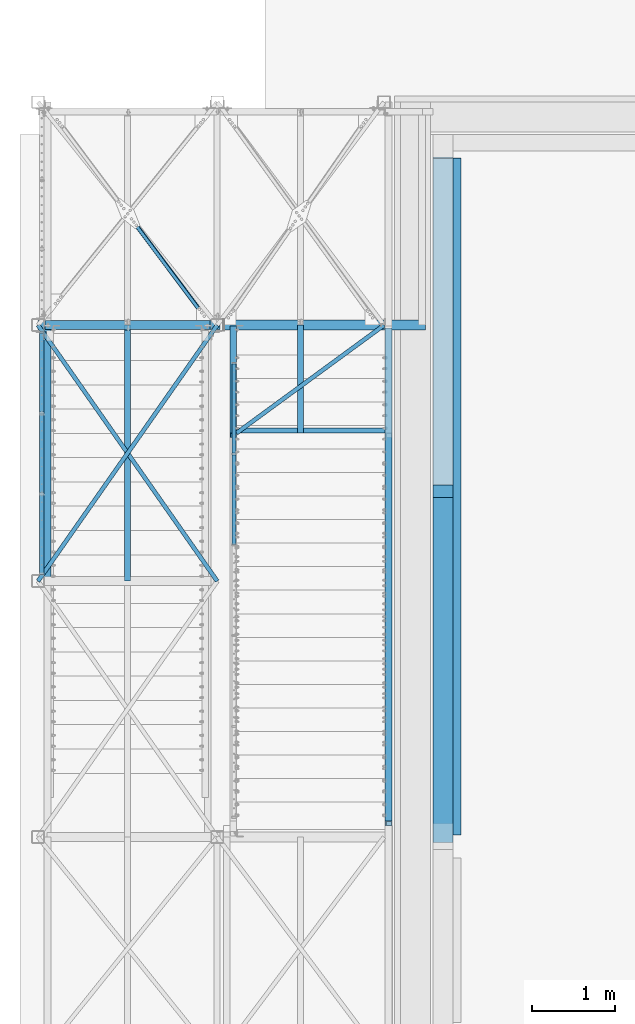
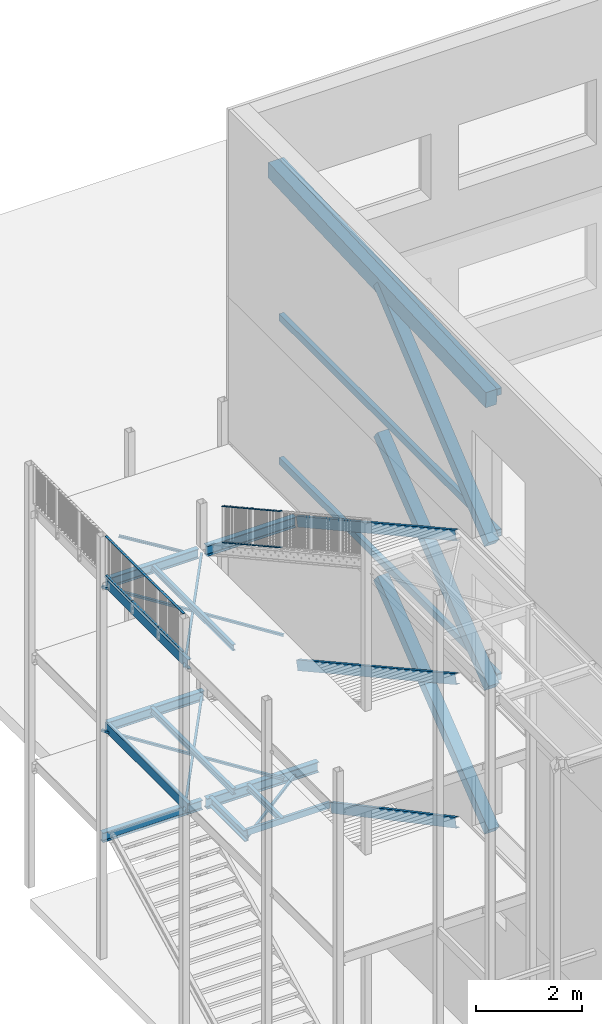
# One storey, part 27 of 78: 24 beams, 8 members, 29 elements without a shape of their own.
"""IFC2X3 building model written with IfcOpenShell, lengths in millimetres."""

from ifc_helpers import new_model, si_unit, frame, origin_with_axes, origin_2d_with_axis, place, context, subcontext, project, spatial, polyline, rectangle, i_section, l_section, u_section, outline, extrude, boolean, clip, halfspace, material, type_object, element, aggregate, save


model = new_model("IFC2X3")

# Units and contexts
model_context = context("Model", 3, precision=1e-05, world=origin_with_axes())
body_context = subcontext(model_context, "Body", "Model", "MODEL_VIEW")
ifc_project = project(units=[si_unit("LENGTHUNIT", "METRE", prefix="MILLI"), si_unit("AREAUNIT", "SQUARE_METRE"), si_unit("VOLUMEUNIT", "CUBIC_METRE"), si_unit("MASSUNIT", "GRAM", prefix="KILO"), si_unit("TIMEUNIT", "SECOND"), si_unit("PLANEANGLEUNIT", "RADIAN"), si_unit("SOLIDANGLEUNIT", "STERADIAN"), si_unit("THERMODYNAMICTEMPERATUREUNIT", "DEGREE_CELSIUS"), si_unit("LUMINOUSINTENSITYUNIT", "LUMEN")], contexts=[model_context])

# Site, building, storey
site_placement = place(None, origin_with_axes())
site = spatial("IfcSite", under=ifc_project, at=site_placement, Name="Site", CompositionType="ELEMENT")
building_placement = place(site_placement, origin_with_axes())
building = spatial("IfcBuilding", under=site, at=building_placement, Name="Undefined", CompositionType="ELEMENT")
storey_placement = place(building_placement, origin_with_axes())
storey = spatial("IfcBuildingStorey", under=building, at=storey_placement, Name="Undefined", CompositionType="ELEMENT", Elevation=0.0)

# Assembly, beam
assembly_1_placement = place(storey_placement, origin_with_axes())
assembly_1 = element("IfcElementAssembly", 1, at=assembly_1_placement, inside=storey, AssemblyPlace="NOTDEFINED", PredefinedType="RIGID_FRAME")
ifc_material_1 = material(Name="STEEL/S235JR")
beam_type_1 = type_object("IfcBeamType", Name="UPN220", PredefinedType="NOTDEFINED")
beam_1_placement = place(assembly_1_placement, frame((-33022.8599999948, 10100.0000000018, 150760.040107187), z_axis=(0.0, 0.0, 1.0), x_axis=(0.0, -1.0, 0.0)))
beam_1 = element("IfcBeam", 2, at=beam_1_placement, type_object=beam_type_1, material=ifc_material_1, Name="LIMON", ObjectType="UPN220", context=body_context, shape_type="Clipping", body=[
    clip(extrude(u_section(Depth=220.0, FlangeWidth=80.0, WebThickness=9.0, FlangeThickness=12.5, FilletRadius=12.5, EdgeRadius=6.5, FlangeSlope=0.0798299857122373, at=origin_2d_with_axis()), frame((1354.33820533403, 0.0, 0.0), z_axis=(-1.0, 0.0, 0.0), x_axis=(0.0, -1.0, 0.0)), (0.0, 0.0, 1.0), 1354.34), halfspace(frame((1299.15654946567, -3.76167008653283e-09, 109.999999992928), z_axis=(-0.97023880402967, 0.0, -0.242150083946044), x_axis=(0.0, -1.0, 0.0)), True)),
])
aggregate(assembly_1, [beam_1])

assembly_2_placement = place(storey_placement, origin_with_axes())
assembly_2 = element("IfcElementAssembly", 3, at=assembly_2_placement, inside=storey, AssemblyPlace="NOTDEFINED", PredefinedType="RIGID_FRAME")
ifc_material_2 = material(Name="STEEL/S275JR")
beam_2_placement = place(assembly_2_placement, frame((-35271.43, 10108.0, 156560.04), z_axis=(0.0, 0.0, -1.0), x_axis=(0.0, -1.0, 0.0)))
beam_2 = element("IfcBeam", 4, at=beam_2_placement, type_object=beam_type_1, material=ifc_material_2, Name="SOLIVE", ObjectType="UPN220", context=body_context, shape_type="Clipping", body=[
    clip(extrude(u_section(Depth=220.0, FlangeWidth=80.0, WebThickness=9.0, FlangeThickness=12.5, FilletRadius=12.5, EdgeRadius=6.5, FlangeSlope=0.0798299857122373, at=origin_2d_with_axis()), frame((3100.0, 0.0, 0.0), z_axis=(-1.0, 0.0, 0.0), x_axis=(0.0, -1.0, 0.0)), (0.0, 0.0, 1.0), 3100.0), halfspace(frame((85.0, -40.0, -110.0), z_axis=(-1.0, 0.0, 0.0), x_axis=(0.0, 1.0, 0.0)), False)),
])
aggregate(assembly_2, [beam_2])

assembly_3_placement = place(storey_placement, origin_with_axes())
assembly_3 = element("IfcElementAssembly", 5, at=assembly_3_placement, inside=storey, AssemblyPlace="NOTDEFINED", PredefinedType="RIGID_FRAME")
beam_3_placement = place(assembly_3_placement, frame((-35271.43, 10108.0, 153260.04), z_axis=(0.0, 0.0, -1.0), x_axis=(0.0, -1.0, 0.0)))
beam_3 = element("IfcBeam", 6, at=beam_3_placement, type_object=beam_type_1, material=ifc_material_2, Name="SOLIVE", ObjectType="UPN220", context=body_context, shape_type="SweptSolid", body=[
    extrude(u_section(Depth=220.0, FlangeWidth=80.0, WebThickness=9.0, FlangeThickness=12.5, FilletRadius=12.5, EdgeRadius=6.5, FlangeSlope=0.0798299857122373, at=origin_2d_with_axis()), frame((3100.0, 0.0, 0.0), z_axis=(-1.0, 0.0, 0.0), x_axis=(0.0, -1.0, 0.0)), (0.0, 0.0, 1.0), 3100.0),
])
aggregate(assembly_3, [beam_3])

# Assembly, beams
assembly_4_placement = place(storey_placement, origin_with_axes())
assembly_4 = element("IfcElementAssembly", 7, at=assembly_4_placement, inside=storey, Name="MAIN_COURANTE", AssemblyPlace="NOTDEFINED", PredefinedType="RIGID_FRAME")
beam_type_2 = type_object("IfcBeamType", Name="PL10*50", PredefinedType="NOTDEFINED")
beam_4_placement = place(assembly_4_placement, frame((-35341.43, 7087.99999999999, 156815.04), z_axis=(1.0, 0.0, 0.0), x_axis=(0.0, 1.0, 0.0)))
solid_1 = boolean("DIFFERENCE", boolean("DIFFERENCE", extrude(rectangle(XDim=20.0, YDim=50.0, at=origin_2d_with_axis()), frame((10.0000000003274, 885.0, -2.18278728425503e-10), z_axis=(0.0, -1.0, 0.0), x_axis=(1.0, 0.0, 0.0)), (0.0, 0.0, 1.0), 1190.0), halfspace(frame((10.0000000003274, 875.0, -2.18278728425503e-11), z_axis=(0.0, 1.0, 0.0), x_axis=(0.0, 0.0, -1.0)), False)), halfspace(frame((-999.999999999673, -305.0, -2.18278728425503e-10), z_axis=(0.0, 1.0, 0.0), x_axis=(0.0, 0.0, -1.0)), True))
solid_2 = boolean("DIFFERENCE", boolean("DIFFERENCE", extrude(rectangle(XDim=20.0, YDim=50.0, at=origin_2d_with_axis()), frame((983.333333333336, 885.0, 0.0), z_axis=(0.0, -1.0, 0.0), x_axis=(1.0, 0.0, 0.0)), (0.0, 0.0, 1.0), 1190.0), halfspace(frame((983.333333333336, 875.0, 0.0), z_axis=(0.0, 1.0, 0.0), x_axis=(0.0, 0.0, -1.0)), False)), halfspace(frame((-26.6666666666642, -305.0, 0.0), z_axis=(0.0, 1.0, 0.0), x_axis=(0.0, 0.0, -1.0)), True))
solid_3 = boolean("DIFFERENCE", boolean("DIFFERENCE", extrude(rectangle(XDim=20.0, YDim=50.0, at=origin_2d_with_axis()), frame((1956.66666666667, 885.0, 0.0), z_axis=(0.0, -1.0, 0.0), x_axis=(1.0, 0.0, 0.0)), (0.0, 0.0, 1.0), 1190.0), halfspace(frame((1956.66666666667, 875.0, 0.0), z_axis=(0.0, 1.0, 0.0), x_axis=(0.0, 0.0, -1.0)), False)), halfspace(frame((946.666666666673, -305.0, 0.0), z_axis=(0.0, 1.0, 0.0), x_axis=(0.0, 0.0, -1.0)), True))
solid_4 = boolean("DIFFERENCE", boolean("DIFFERENCE", extrude(rectangle(XDim=20.0, YDim=50.0, at=origin_2d_with_axis()), frame((2930.00000000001, 885.0, 0.0), z_axis=(0.0, -1.0, 0.0), x_axis=(1.0, 0.0, 0.0)), (0.0, 0.0, 1.0), 1190.0), halfspace(frame((2930.00000000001, 875.0, 0.0), z_axis=(0.0, 1.0, 0.0), x_axis=(0.0, 0.0, -1.0)), False)), halfspace(frame((1920.00000000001, -305.0, 0.0), z_axis=(0.0, 1.0, 0.0), x_axis=(0.0, 0.0, -1.0)), True))
beam_4 = element("IfcBeam", 8, at=beam_4_placement, type_object=beam_type_2, material=ifc_material_1, Name="LISSE", ObjectType="PL10*50", context=body_context, shape_type="CSG", body=[
    boolean("DIFFERENCE", boolean("DIFFERENCE", boolean("DIFFERENCE", boolean("DIFFERENCE", extrude(rectangle(XDim=10.0, YDim=50.0, at=origin_2d_with_axis()), frame((2940.00000000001, 0.0, 0.0), z_axis=(-1.0, 0.0, 0.0), x_axis=(0.0, -1.0, 0.0)), (0.0, 0.0, 1.0), 2940.0), solid_1), solid_2), solid_3), solid_4),
])
beam_5_placement = place(assembly_4_placement, frame((-35341.43, 10028.0, 157695.04), z_axis=(1.0, 0.0, 0.0), x_axis=(0.0, -1.0, 0.0)))
beam_5 = element("IfcBeam", 9, at=beam_5_placement, type_object=beam_type_2, material=ifc_material_1, Name="MAIN_COURANTE", ObjectType="PL10*50", context=body_context, shape_type="SweptSolid", body=[
    extrude(rectangle(XDim=10.0, YDim=50.0, at=origin_2d_with_axis()), frame((2940.00000000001, 0.0, 0.0), z_axis=(-1.0, 0.0, 0.0), x_axis=(0.0, -1.0, 0.0)), (0.0, 0.0, 1.0), 2940.0),
])
aggregate(assembly_4, [beam_4, beam_5])

# Assembly, beam
assembly_5_placement = place(storey_placement, origin_with_axes())
assembly_5 = element("IfcElementAssembly", 10, at=assembly_5_placement, inside=storey, Name="STAB", AssemblyPlace="NOTDEFINED", PredefinedType="RIGID_FRAME")
beam_type_3 = type_object("IfcBeamType", Name="L50*5", PredefinedType="NOTDEFINED")
beam_6_placement = place(assembly_5_placement, frame((-34301.4299999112, 11457.9999998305, 156483.04), z_axis=(0.0, 0.0, 1.0), x_axis=(0.59905058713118, -0.800711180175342, 0.0)))
beam_6 = element("IfcBeam", 11, at=beam_6_placement, type_object=beam_type_3, material=ifc_material_2, Name="STAB", ObjectType="L50*5", context=body_context, shape_type="Clipping", body=[
    clip(clip(extrude(l_section(Depth=50.0, Width=50.0, Thickness=5.0, FilletRadius=7.0, EdgeRadius=3.5, at=origin_2d_with_axis()), frame((1686.0011860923, 0.0, 0.0), z_axis=(-1.0, 0.0, 0.0), x_axis=(0.0, -1.0, 0.0)), (0.0, 0.0, 1.0), 1686.0), halfspace(frame((1573.63075019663, -4.51109372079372e-10, -33.0), z_axis=(-1.0, 0.0, 0.0), x_axis=(0.0, 1.0, 0.0)), True)), halfspace(frame((52.8846509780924, 5.42058842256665e-10, -33.0), z_axis=(1.0, 0.0, 0.0), x_axis=(0.0, -1.0, 0.0)), True)),
])
aggregate(assembly_5, [beam_6])

assembly_6_placement = place(storey_placement, origin_with_axes())
assembly_6 = element("IfcElementAssembly", 12, at=assembly_6_placement, inside=storey, Name="STAB", AssemblyPlace="NOTDEFINED", PredefinedType="RIGID_FRAME")
beam_7_placement = place(assembly_6_placement, frame((-32982.8600000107, 8800.84000152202, 150705.04), z_axis=(0.0, 0.0, -1.0), x_axis=(0.807026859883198, 0.590514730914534, 0.0)))
beam_7 = element("IfcBeam", 13, at=beam_7_placement, type_object=beam_type_3, material=ifc_material_2, Name="STAB", ObjectType="L50*5", context=body_context, shape_type="SweptSolid", body=[
    extrude(l_section(Depth=50.0, Width=50.0, Thickness=5.0, FilletRadius=7.0, EdgeRadius=3.5, at=origin_2d_with_axis()), frame((2213.59422896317, -3.39222047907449e-12, 2.91038304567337e-11), z_axis=(-1.0, 0.0, 0.0), x_axis=(0.0, -1.0, 0.0)), (0.0, 0.0, 1.0), 2213.59),
])
aggregate(assembly_6, [beam_7])

assembly_7_placement = place(storey_placement, origin_with_axes())
assembly_7 = element("IfcElementAssembly", 14, at=assembly_7_placement, inside=storey, Name="STAB", AssemblyPlace="NOTDEFINED", PredefinedType="RIGID_FRAME")
beam_8_placement = place(assembly_7_placement, frame((-35386.4300000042, 7007.99999997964, 156505.04), z_axis=(0.0, 0.0, -1.0), x_axis=(0.57346234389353, 0.8192319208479, 0.0)))
beam_8 = element("IfcBeam", 15, at=beam_8_placement, type_object=beam_type_3, material=ifc_material_2, Name="STAB", ObjectType="L50*5", context=body_context, shape_type="SweptSolid", body=[
    extrude(l_section(Depth=50.0, Width=50.0, Thickness=5.0, FilletRadius=7.0, EdgeRadius=3.5, at=origin_2d_with_axis()), frame((3784.03224088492, 4.20111971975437e-13, 0.0), z_axis=(-1.0, 0.0, 0.0), x_axis=(0.0, -1.0, 0.0)), (0.0, 0.0, 1.0), 3784.03),
])
aggregate(assembly_7, [beam_8])

assembly_8_placement = place(storey_placement, origin_with_axes())
assembly_8 = element("IfcElementAssembly", 16, at=assembly_8_placement, inside=storey, Name="STAB", AssemblyPlace="NOTDEFINED", PredefinedType="RIGID_FRAME")
beam_9_placement = place(assembly_8_placement, frame((-35386.4300000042, 10107.9999999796, 156505.04), z_axis=(0.0, 0.0, -1.0), x_axis=(0.573462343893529, -0.8192319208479, 0.0)))
beam_9 = element("IfcBeam", 17, at=beam_9_placement, type_object=beam_type_3, material=ifc_material_2, Name="STAB", ObjectType="L50*5", context=body_context, shape_type="SweptSolid", body=[
    extrude(l_section(Depth=50.0, Width=50.0, Thickness=5.0, FilletRadius=7.0, EdgeRadius=3.5, at=origin_2d_with_axis()), frame((3784.03224088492, 4.20111971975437e-13, 0.0), z_axis=(-1.0, 0.0, 0.0), x_axis=(0.0, -1.0, 0.0)), (0.0, 0.0, 1.0), 3784.03),
])
aggregate(assembly_8, [beam_9])

assembly_9_placement = place(storey_placement, origin_with_axes())
assembly_9 = element("IfcElementAssembly", 18, at=assembly_9_placement, inside=storey, AssemblyPlace="NOTDEFINED", PredefinedType="RIGID_FRAME")
beam_10_placement = place(assembly_9_placement, frame((-35386.4300000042, 7007.99999997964, 153205.04), z_axis=(0.0, 0.0, -1.0), x_axis=(0.57346234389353, 0.8192319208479, 0.0)))
beam_10 = element("IfcBeam", 19, at=beam_10_placement, type_object=beam_type_3, material=ifc_material_2, Name="STAB", ObjectType="L50*5", context=body_context, shape_type="SweptSolid", body=[
    extrude(l_section(Depth=50.0, Width=50.0, Thickness=5.0, FilletRadius=7.0, EdgeRadius=3.5, at=origin_2d_with_axis()), frame((3784.03224088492, 4.20111971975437e-13, 0.0), z_axis=(-1.0, 0.0, 0.0), x_axis=(0.0, -1.0, 0.0)), (0.0, 0.0, 1.0), 3784.03),
])
aggregate(assembly_9, [beam_10])

assembly_10_placement = place(storey_placement, origin_with_axes())
assembly_10 = element("IfcElementAssembly", 20, at=assembly_10_placement, inside=storey, AssemblyPlace="NOTDEFINED", PredefinedType="RIGID_FRAME")
beam_11_placement = place(assembly_10_placement, frame((-35386.4299999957, 10107.9999999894, 153205.04), z_axis=(0.0, 0.0, -1.0), x_axis=(0.573462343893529, -0.8192319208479, 0.0)))
beam_11 = element("IfcBeam", 21, at=beam_11_placement, type_object=beam_type_3, material=ifc_material_2, Name="STAB", ObjectType="L50*5", context=body_context, shape_type="SweptSolid", body=[
    extrude(l_section(Depth=50.0, Width=50.0, Thickness=5.0, FilletRadius=7.0, EdgeRadius=3.5, at=origin_2d_with_axis()), frame((3784.03224088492, 4.20111971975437e-13, 0.0), z_axis=(-1.0, 0.0, 0.0), x_axis=(0.0, -1.0, 0.0)), (0.0, 0.0, 1.0), 3784.03),
])
aggregate(assembly_10, [beam_11])

assembly_11_placement = place(storey_placement, origin_with_axes())
assembly_11 = element("IfcElementAssembly", 22, at=assembly_11_placement, inside=storey, AssemblyPlace="NOTDEFINED", PredefinedType="RIGID_FRAME")
beam_type_4 = type_object("IfcBeamType", Name="IPE140", PredefinedType="NOTDEFINED")
beam_12_placement = place(assembly_11_placement, frame((-32206.43, 10108.0, 150800.04), z_axis=(0.0, 0.0, -1.0), x_axis=(0.0, -1.0, 0.0)))
beam_12 = element("IfcBeam", 23, at=beam_12_placement, type_object=beam_type_4, material=ifc_material_2, Name="SOLIVE", ObjectType="IPE140", context=body_context, shape_type="SweptSolid", body=[
    extrude(i_section(OverallWidth=73.0, OverallDepth=140.0, WebThickness=4.699999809, FlangeThickness=6.900000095, FilletRadius=7.0, at=origin_2d_with_axis()), frame((1307.16, 0.0, 0.0), z_axis=(-1.0, 0.0, 0.0), x_axis=(0.0, -1.0, 0.0)), (0.0, 0.0, 1.0), 1307.16),
])
aggregate(assembly_11, [beam_12])

assembly_12_placement = place(storey_placement, origin_with_axes())
assembly_12 = element("IfcElementAssembly", 24, at=assembly_12_placement, inside=storey, AssemblyPlace="NOTDEFINED", PredefinedType="RIGID_FRAME")
beam_13_placement = place(assembly_12_placement, frame((-34301.43, 10108.0, 156600.04), z_axis=(0.0, 0.0, -1.0), x_axis=(0.0, -1.0, 0.0)))
beam_13 = element("IfcBeam", 25, at=beam_13_placement, type_object=beam_type_4, material=ifc_material_2, Name="SOLIVE", ObjectType="IPE140", context=body_context, shape_type="CSG", body=[
    boolean("DIFFERENCE", boolean("DIFFERENCE", boolean("DIFFERENCE", extrude(i_section(OverallWidth=73.0, OverallDepth=140.0, WebThickness=4.699999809, FlangeThickness=6.900000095, FilletRadius=7.0, at=origin_2d_with_axis()), frame((3100.0, 0.0, 0.0), z_axis=(-1.0, 0.0, 0.0), x_axis=(0.0, -1.0, 0.0)), (0.0, 0.0, 1.0), 3100.0), extrude(outline(polyline([(0.0, 0.0), (62.0499999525, 0.0), (62.0499999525, 29.1999998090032), (0.0, 29.1999998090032), (0.0, 0.0)])), frame((2.9500000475, -46.5, -50.8000001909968), z_axis=(0.0, 1.0, 0.0), x_axis=(1.0, 0.0, 0.0)), (0.0, 0.0, 1.0), 93.0)), extrude(rectangle(XDim=90.0, YDim=90.0, at=origin_2d_with_axis()), frame((47.9500000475, -47.9499999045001, -45.0), z_axis=(0.0, 0.0, 1.0), x_axis=(1.0, 0.0, 0.0)), (0.0, 0.0, 1.0), 102.0)), halfspace(frame((12.9500000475, 0.0, -170.0), z_axis=(-1.0, 0.0, 0.0), x_axis=(0.0, 1.0, 0.0)), False)),
])
aggregate(assembly_12, [beam_13])

assembly_13_placement = place(storey_placement, origin_with_axes())
assembly_13 = element("IfcElementAssembly", 26, at=assembly_13_placement, inside=storey, AssemblyPlace="NOTDEFINED", PredefinedType="RIGID_FRAME")
beam_14_placement = place(assembly_13_placement, frame((-34301.43, 10108.0, 153300.04), z_axis=(0.0, 0.0, -1.0), x_axis=(0.0, -1.0, 0.0)))
beam_14 = element("IfcBeam", 27, at=beam_14_placement, type_object=beam_type_4, material=ifc_material_2, Name="SOLIVE", ObjectType="IPE140", context=body_context, shape_type="SweptSolid", body=[
    extrude(i_section(OverallWidth=73.0, OverallDepth=140.0, WebThickness=4.699999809, FlangeThickness=6.900000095, FilletRadius=7.0, at=origin_2d_with_axis()), frame((3100.0, 0.0, 0.0), z_axis=(-1.0, 0.0, 0.0), x_axis=(0.0, -1.0, 0.0)), (0.0, 0.0, 1.0), 3100.0),
])
aggregate(assembly_13, [beam_14])

assembly_14_placement = place(storey_placement, origin_with_axes())
assembly_14 = element("IfcElementAssembly", 28, at=assembly_14_placement, inside=storey, Name="POUTRE", AssemblyPlace="NOTDEFINED", PredefinedType="RIGID_FRAME")
beam_type_5 = type_object("IfcBeamType", Name="UPN140", PredefinedType="NOTDEFINED")
beam_15_placement = place(assembly_14_placement, frame((-31182.8600000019, 8830.84, 150800.04), z_axis=(0.0, 0.0, 1.0), x_axis=(-1.0, 0.0, 0.0)))
beam_15 = element("IfcBeam", 29, at=beam_15_placement, type_object=beam_type_5, material=ifc_material_1, Name="POUTRE", ObjectType="UPN140", context=body_context, shape_type="SweptSolid", body=[
    extrude(u_section(Depth=140.0, FlangeWidth=60.0, WebThickness=7.0, FlangeThickness=10.0, FilletRadius=10.0, EdgeRadius=5.0, FlangeSlope=0.0798299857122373, at=origin_2d_with_axis()), frame((1800.00348601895, 0.0, 0.0), z_axis=(-1.0, 0.0, 0.0), x_axis=(0.0, -1.0, 0.0)), (0.0, 0.0, 1.0), 1800.0),
])
aggregate(assembly_14, [beam_15])

# Assembly, members
assembly_15_placement = place(storey_placement, origin_with_axes())
assembly_15 = element("IfcElementAssembly", 30, at=assembly_15_placement, inside=storey, Name="MAIN_COURANTE", AssemblyPlace="NOTDEFINED", PredefinedType="RIGID_FRAME")
member_type_1 = type_object("IfcMemberType", Name="PL10*50", PredefinedType="NOTDEFINED")
member_1_placement = place(assembly_15_placement, frame((-33012.8599999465, 7447.99999989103, 158183.929924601), z_axis=(1.0, 0.0, 0.0), x_axis=(0.0, 0.87524153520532, -0.48368611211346)))
solid_5 = boolean("DIFFERENCE", boolean("DIFFERENCE", extrude(rectangle(XDim=20.0, YDim=50.0, at=origin_2d_with_axis()), frame((-404.923975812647, 732.71957444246, 7.52916093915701e-08), z_axis=(0.48368611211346, -0.87524153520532, 0.0), x_axis=(0.87524153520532, 0.48368611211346, 0.0)), (0.0, 0.0, 1.0), 900.0), halfspace(frame((-402.160817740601, 722.719574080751, 5.6883436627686e-08), z_axis=(0.0, 1.0, 0.0), x_axis=(0.0, 0.0, -1.0)), False)), halfspace(frame((25.9724724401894, -46.9978072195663, -24.9999999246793), z_axis=(0.0, 1.0, 0.0), x_axis=(1.0, 0.0, 0.0)), True))
solid_6 = boolean("DIFFERENCE", boolean("DIFFERENCE", extrude(rectangle(XDim=20.0, YDim=50.0, at=origin_2d_with_axis()), frame((851.871955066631, 732.719574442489, 6.72953319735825e-08), z_axis=(0.48368611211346, -0.87524153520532, 0.0), x_axis=(0.87524153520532, 0.48368611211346, 0.0)), (0.0, 0.0, 1.0), 900.0), halfspace(frame((854.635113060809, 722.71957422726, 5.69052645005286e-08), z_axis=(0.0, 1.0, 0.0), x_axis=(0.0, 0.0, -1.0)), False)), halfspace(frame((1282.76840332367, -46.9978072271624, -24.9999999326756), z_axis=(0.0, 1.0, 0.0), x_axis=(1.0, 0.0, 0.0)), True))
solid_7 = boolean("DIFFERENCE", extrude(rectangle(XDim=20.0, YDim=50.0, at=origin_2d_with_axis()), frame((2108.66788594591, 732.719574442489, 5.92917785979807e-08), z_axis=(0.48368611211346, -0.87524153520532, 0.0), x_axis=(0.87524153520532, 0.48368611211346, 0.0)), (0.0, 0.0, 1.0), 900.0), halfspace(frame((2539.56433420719, -46.9978072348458, -24.9999999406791), z_axis=(0.0, 1.0, 0.0), x_axis=(1.0, 0.0, 0.0)), True))
member_1 = element("IfcMember", 31, at=member_1_placement, type_object=member_type_1, material=ifc_material_1, Name="LISSE", ObjectType="PL10*50", context=body_context, shape_type="CSG", body=[
    boolean("DIFFERENCE", boolean("DIFFERENCE", boolean("DIFFERENCE", boolean("DIFFERENCE", extrude(rectangle(XDim=10.0, YDim=50.0, at=origin_2d_with_axis()), frame((2525.01727932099, 0.0, -7.27595761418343e-12), z_axis=(-1.0, 0.0, 0.0), x_axis=(0.0, -1.0, 0.0)), (0.0, 0.0, 1.0), 2525.02), solid_5), solid_6), solid_7), halfspace(frame((2525.01727932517, -5.09608071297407e-08, -50.0000000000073), z_axis=(-0.875241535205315, -0.483686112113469, 0.0), x_axis=(-0.483686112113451, 0.875241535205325, 0.0)), True)),
])
member_2_placement = place(assembly_15_placement, frame((-33012.8599999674, 9657.99999985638, 157794.064133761), z_axis=(1.0, 0.0, 0.0), x_axis=(0.0, -0.87524153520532, 0.483686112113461)))
member_2 = element("IfcMember", 32, at=member_2_placement, type_object=member_type_1, material=ifc_material_1, Name="MAIN_COURANTE", ObjectType="PL10*50", context=body_context, shape_type="Clipping", body=[
    clip(extrude(rectangle(XDim=10.0, YDim=50.0, at=origin_2d_with_axis()), frame((2525.01727932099, 0.0, -7.27595761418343e-12), z_axis=(-1.0, 0.0, 0.0), x_axis=(0.0, -1.0, 0.0)), (0.0, 0.0, 1.0), 2532.08), halfspace(frame((0.0, 0.0, -50.0), z_axis=(0.87524153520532, 0.48368611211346, 0.0), x_axis=(0.48368611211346, -0.87524153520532, 0.0)), True)),
])
aggregate(assembly_15, [member_1, member_2])

# Assembly, beam
assembly_16_placement = place(storey_placement, origin_with_axes())
assembly_16 = element("IfcElementAssembly", 33, at=assembly_16_placement, inside=storey, Name="POUTRE", AssemblyPlace="NOTDEFINED", PredefinedType="NOTDEFINED")
ifc_material_3 = material(Name="TIMBER/CHENE")
beam_type_6 = type_object("IfcBeamType", Name="160*100", PredefinedType="NOTDEFINED")
beam_16_placement = place(assembly_16_placement, frame((-30313.4340242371, 3934.0044717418, 156400.034552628), z_axis=(0.0, 0.0, 1.0), x_axis=(0.0, 1.0, 0.0)))
beam_16 = element("IfcBeam", 34, at=beam_16_placement, type_object=beam_type_6, material=ifc_material_3, Name="POUTRE", ObjectType="160*100", context=body_context, shape_type="SweptSolid", body=[
    extrude(rectangle(XDim=100.0, YDim=160.0, at=origin_2d_with_axis()), frame((8200.99781004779, 0.0, 0.0), z_axis=(-1.0, 0.0, 0.0), x_axis=(0.0, -1.0, 0.0)), (0.0, 0.0, 1.0), 8201.0),
])
aggregate(assembly_16, [beam_16])

assembly_17_placement = place(storey_placement, origin_with_axes())
assembly_17 = element("IfcElementAssembly", 35, at=assembly_17_placement, inside=storey, Name="POUTRE", AssemblyPlace="NOTDEFINED", PredefinedType="NOTDEFINED")
beam_17_placement = place(assembly_17_placement, frame((-30313.4334564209, 3934.00054300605, 159700.041324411), z_axis=(0.0, 0.0, 1.0), x_axis=(0.0, 1.0, 0.0)))
beam_17 = element("IfcBeam", 36, at=beam_17_placement, type_object=beam_type_6, material=ifc_material_3, Name="POUTRE", ObjectType="160*100", context=body_context, shape_type="SweptSolid", body=[
    extrude(rectangle(XDim=100.0, YDim=160.0, at=origin_2d_with_axis()), frame((8200.99781004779, 0.0, 0.0), z_axis=(-1.0, 0.0, 0.0), x_axis=(0.0, -1.0, 0.0)), (0.0, 0.0, 1.0), 8201.0),
])
aggregate(assembly_17, [beam_17])

assembly_18_placement = place(storey_placement, origin_with_axes())
assembly_18 = element("IfcElementAssembly", 37, at=assembly_18_placement, inside=storey, Name="POUTRE", AssemblyPlace="NOTDEFINED", PredefinedType="NOTDEFINED")
beam_18_placement = place(assembly_18_placement, frame((-30313.4328886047, 12131.7510678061, 163264.984122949), z_axis=(0.0, -0.039539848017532, 0.99921799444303), x_axis=(0.0, -0.99921799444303, -0.0395398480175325)))
beam_18 = element("IfcBeam", 38, at=beam_18_placement, type_object=beam_type_6, material=ifc_material_3, Name="POUTRE", ObjectType="160*100", context=body_context, shape_type="SweptSolid", body=[
    extrude(rectangle(XDim=100.0, YDim=160.0, at=origin_2d_with_axis()), frame((8200.00025598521, 0.0, -5.68989317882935e-14), z_axis=(-1.0, 0.0, 0.0), x_axis=(0.0, -1.0, 0.0)), (0.0, 0.0, 1.0), 8200.0),
])
aggregate(assembly_18, [beam_18])

assembly_19_placement = place(storey_placement, origin_with_axes())
assembly_19 = element("IfcElementAssembly", 39, at=assembly_19_placement, inside=storey, Name="POUTRE", AssemblyPlace="NOTDEFINED", PredefinedType="NOTDEFINED")
beam_type_7 = type_object("IfcBeamType", Name="360*240", PredefinedType="NOTDEFINED")
beam_19_placement = place(assembly_19_placement, frame((-30483.4338378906, 12135.7047539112, 163165.061835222), z_axis=(0.0, -0.039539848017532, 0.99921799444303), x_axis=(0.0, -0.99921799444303, -0.0395398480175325)))
beam_19 = element("IfcBeam", 40, at=beam_19_placement, type_object=beam_type_7, material=ifc_material_3, Name="POUTRE", ObjectType="360*240", context=body_context, shape_type="SweptSolid", body=[
    extrude(rectangle(XDim=240.0, YDim=360.0, at=origin_2d_with_axis()), frame((8200.00025598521, 0.0, -5.68989317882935e-14), z_axis=(-1.0, 0.0, 0.0), x_axis=(0.0, -1.0, 0.0)), (0.0, 0.0, 1.0), 8200.0),
])
aggregate(assembly_19, [beam_19])

# Assembly, member
assembly_20_placement = place(storey_placement, origin_with_axes())
assembly_20 = element("IfcElementAssembly", 41, at=assembly_20_placement, inside=storey, Name="POUTRE", AssemblyPlace="NOTDEFINED", PredefinedType="NOTDEFINED")
member_type_2 = type_object("IfcMemberType", Name="240*240", PredefinedType="NOTDEFINED")
member_3_placement = place(assembly_20_placement, frame((-30483.4327932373, 3914.99998466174, 152940.040049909), z_axis=(0.0, -0.619644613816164, 0.784882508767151), x_axis=(0.0, 0.784882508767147, 0.619644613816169)))
member_3 = element("IfcMember", 42, at=member_3_placement, type_object=member_type_2, material=ifc_material_3, Name="POUTRE", ObjectType="240*240", context=body_context, shape_type="SweptSolid", body=[
    extrude(rectangle(XDim=240.0, YDim=240.0, at=origin_2d_with_axis()), frame((5325.63824287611, 0.0, 0.0), z_axis=(-1.0, 0.0, 0.0), x_axis=(0.0, -1.0, 0.0)), (0.0, 0.0, 1.0), 5325.64),
])
aggregate(assembly_20, [member_3])

assembly_21_placement = place(storey_placement, origin_with_axes())
assembly_21 = element("IfcElementAssembly", 43, at=assembly_21_placement, inside=storey, Name="POUTRE", AssemblyPlace="NOTDEFINED", PredefinedType="NOTDEFINED")
member_4_placement = place(assembly_21_placement, frame((-30483.4327932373, 3914.99998431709, 156240.043102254), z_axis=(0.0, -0.619644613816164, 0.784882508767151), x_axis=(0.0, 0.784882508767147, 0.619644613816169)))
member_4 = element("IfcMember", 44, at=member_4_placement, type_object=member_type_2, material=ifc_material_3, Name="POUTRE", ObjectType="240*240", context=body_context, shape_type="SweptSolid", body=[
    extrude(rectangle(XDim=240.0, YDim=240.0, at=origin_2d_with_axis()), frame((5325.63824287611, 0.0, 0.0), z_axis=(-1.0, 0.0, 0.0), x_axis=(0.0, -1.0, 0.0)), (0.0, 0.0, 1.0), 5325.64),
])
aggregate(assembly_21, [member_4])

assembly_22_placement = place(storey_placement, origin_with_axes())
assembly_22 = element("IfcElementAssembly", 45, at=assembly_22_placement, inside=storey, Name="POUTRE", AssemblyPlace="NOTDEFINED", PredefinedType="NOTDEFINED")
member_5_placement = place(assembly_22_placement, frame((-30483.4327932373, 3915.00045153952, 159540.051607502), z_axis=(0.0, -0.638201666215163, 0.769869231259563), x_axis=(0.0, 0.76986923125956, 0.638201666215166)))
member_5 = element("IfcMember", 46, at=member_5_placement, type_object=member_type_2, material=ifc_material_3, Name="POUTRE", ObjectType="240*240", context=body_context, shape_type="SweptSolid", body=[
    extrude(rectangle(XDim=240.0, YDim=240.0, at=origin_2d_with_axis()), frame((5429.48960530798, 0.0, 1.54561068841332e-11), z_axis=(-1.0, 0.0, 0.0), x_axis=(0.0, -1.0, 0.0)), (0.0, 0.0, 1.0), 5429.49),
])
aggregate(assembly_22, [member_5])

assembly_23_placement = place(storey_placement, origin_with_axes())
assembly_23 = element("IfcElementAssembly", 47, at=assembly_23_placement, inside=storey, AssemblyPlace="NOTDEFINED", PredefinedType="RIGID_FRAME")
member_type_3 = type_object("IfcMemberType", Name="UPN220", PredefinedType="NOTDEFINED")
member_6_placement = place(assembly_23_placement, frame((-31142.8600002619, 4049.08024165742, 156573.763431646), z_axis=(0.0, 0.48368611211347, 0.875241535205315), x_axis=(0.0, 0.87524153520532, -0.48368611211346)))
member_6 = element("IfcMember", 48, at=member_6_placement, type_object=member_type_3, material=ifc_material_1, Name="LIMON", ObjectType="UPN220", context=body_context, shape_type="Clipping", body=[
    clip(clip(extrude(u_section(Depth=220.0, FlangeWidth=80.0, WebThickness=9.0, FlangeThickness=12.5, FilletRadius=12.5, EdgeRadius=6.5, FlangeSlope=0.0798299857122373, at=origin_2d_with_axis()), frame((7008.61653491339, 0.0, 3.89056372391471e-13), z_axis=(-1.0, 0.0, 0.0), x_axis=(0.0, -1.0, 0.0)), (0.0, 0.0, 1.0), 7137.88), halfspace(frame((6822.60647553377, -2.00416252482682e-08, 110.000000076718), z_axis=(0.968308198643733, 0.0, 0.249758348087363), x_axis=(0.0, 1.0, 0.0)), False)), halfspace(frame((-1.64160519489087e-06, -39.9999999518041, 109.99999989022), z_axis=(-0.968308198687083, 0.0, -0.249758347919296), x_axis=(0.0, -1.0, 0.0)), False)),
])
aggregate(assembly_23, [member_6])

assembly_24_placement = place(storey_placement, origin_with_axes())
assembly_24 = element("IfcElementAssembly", 49, at=assembly_24_placement, inside=storey, AssemblyPlace="NOTDEFINED", PredefinedType="RIGID_FRAME")
member_7_placement = place(assembly_24_placement, frame((-31142.8600003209, 4049.08024161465, 159873.763431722), z_axis=(0.0, 0.48368611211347, 0.875241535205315), x_axis=(0.0, 0.87524153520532, -0.48368611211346)))
member_7 = element("IfcMember", 50, at=member_7_placement, type_object=member_type_3, material=ifc_material_1, Name="LIMON", ObjectType="UPN220", context=body_context, shape_type="Clipping", body=[
    clip(clip(extrude(u_section(Depth=220.0, FlangeWidth=80.0, WebThickness=9.0, FlangeThickness=12.5, FilletRadius=12.5, EdgeRadius=6.5, FlangeSlope=0.0798299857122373, at=origin_2d_with_axis()), frame((7008.61653491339, 0.0, 3.89056372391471e-13), z_axis=(-1.0, 0.0, 0.0), x_axis=(0.0, -1.0, 0.0)), (0.0, 0.0, 1.0), 7137.88), halfspace(frame((6822.60647553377, -2.00416252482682e-08, 110.000000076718), z_axis=(0.968308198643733, 0.0, 0.249758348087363), x_axis=(0.0, 1.0, 0.0)), False)), halfspace(frame((-1.64160519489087e-06, -39.9999999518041, 109.99999989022), z_axis=(-0.968308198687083, 0.0, -0.249758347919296), x_axis=(0.0, -1.0, 0.0)), False)),
])
aggregate(assembly_24, [member_7])

assembly_25_placement = place(storey_placement, origin_with_axes())
assembly_25 = element("IfcElementAssembly", 51, at=assembly_25_placement, inside=storey, AssemblyPlace="NOTDEFINED", PredefinedType="RIGID_FRAME")
member_8_placement = place(assembly_25_placement, frame((-31142.86000009, 4052.67027749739, 153272.940173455), z_axis=(0.0, 0.469886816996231, 0.882726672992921), x_axis=(0.0, 0.88272667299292, -0.469886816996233)))
member_8 = element("IfcMember", 52, at=member_8_placement, type_object=member_type_3, material=ifc_material_1, Name="LIMON", ObjectType="UPN220", context=body_context, shape_type="Clipping", body=[
    clip(clip(extrude(u_section(Depth=220.0, FlangeWidth=80.0, WebThickness=9.0, FlangeThickness=12.5, FilletRadius=12.5, EdgeRadius=6.5, FlangeSlope=0.0798299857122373, at=origin_2d_with_axis()), frame((5501.24524598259, 0.0, 0.0), z_axis=(-1.0, 0.0, 0.0), x_axis=(0.0, -1.0, 0.0)), (0.0, 0.0, 1.0), 5627.15), halfspace(frame((5320.4301757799, -3.36513039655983e-08, 110.000000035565), z_axis=(0.970238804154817, 0.0, 0.242150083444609), x_axis=(0.0, 1.0, 0.0)), False)), halfspace(frame((-1.64160519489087e-06, -39.9999999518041, 109.99999989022), z_axis=(-0.97023880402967, 0.0, -0.242150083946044), x_axis=(0.0, -1.0, 0.0)), False)),
])
aggregate(assembly_25, [member_8])

# Assembly, beams
assembly_26_placement = place(storey_placement, origin_with_axes())
assembly_26 = element("IfcElementAssembly", 53, at=assembly_26_placement, inside=storey, Name="POTEAU", AssemblyPlace="NOTDEFINED", PredefinedType="RIGID_FRAME")
beam_type_8 = type_object("IfcBeamType", Name="IPE240", PredefinedType="NOTDEFINED")
beam_20_placement = place(assembly_26_placement, frame((-30696.43, 10108.0, 150750.04), z_axis=(0.0, 0.0, 1.0), x_axis=(-1.0, 0.0, 0.0)))
beam_20 = element("IfcBeam", 54, at=beam_20_placement, type_object=beam_type_8, material=ifc_material_2, Name="SOLIVE", ObjectType="IPE240", context=body_context, shape_type="Clipping", body=[
    clip(extrude(i_section(OverallWidth=120.0, OverallDepth=240.0, WebThickness=6.199999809, FlangeThickness=9.800000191, FilletRadius=15.0, at=origin_2d_with_axis()), frame((2520.0, 0.0, 0.0), z_axis=(-1.0, 0.0, 0.0), x_axis=(0.0, -1.0, 0.0)), (0.0, 0.0, 1.0), 2520.0), halfspace(frame((2435.00000000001, 0.0, -130.0), z_axis=(-1.0, 0.0, 0.0), x_axis=(0.0, 1.0, 0.0)), True)),
])
beam_21_placement = place(assembly_26_placement, frame((-31182.86, 10108.0, 156550.04), z_axis=(0.0, 0.0, 1.0), x_axis=(-1.0, 0.0, 0.0)))
beam_21 = element("IfcBeam", 55, at=beam_21_placement, type_object=beam_type_8, material=ifc_material_2, Name="SOLIVE", ObjectType="IPE240", context=body_context, shape_type="Clipping", body=[
    clip(clip(extrude(i_section(OverallWidth=120.0, OverallDepth=240.0, WebThickness=6.199999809, FlangeThickness=9.800000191, FilletRadius=15.0, at=origin_2d_with_axis()), frame((2033.57, 0.0, 0.0), z_axis=(-1.0, 0.0, 0.0), x_axis=(0.0, -1.0, 0.0)), (0.0, 0.0, 1.0), 2033.57), halfspace(frame((1948.57, 0.0, -130.0), z_axis=(-1.0, 0.0, 0.0), x_axis=(0.0, 1.0, 0.0)), True)), halfspace(frame((10.0000000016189, 0.0, 220.0), z_axis=(-1.0, 0.0, 0.0), x_axis=(0.0, -1.0, 0.0)), False)),
])
aggregate(assembly_26, [beam_20, beam_21])

# Assembly, beam
assembly_27_placement = place(storey_placement, origin_with_axes())
assembly_27 = element("IfcElementAssembly", 56, at=assembly_27_placement, inside=storey, AssemblyPlace="NOTDEFINED", PredefinedType="RIGID_FRAME")
beam_type_9 = type_object("IfcBeamType", Name="IPE220", PredefinedType="NOTDEFINED")
beam_22_placement = place(assembly_27_placement, frame((-33216.43, 10108.0, 150760.04), z_axis=(0.0, 0.0, 1.0), x_axis=(-1.0, 0.0, 0.0)))
beam_22 = element("IfcBeam", 57, at=beam_22_placement, type_object=beam_type_9, material=ifc_material_2, Name="SOLIVE", ObjectType="IPE220", context=body_context, shape_type="SweptSolid", body=[
    extrude(i_section(OverallWidth=110.0, OverallDepth=220.0, WebThickness=5.900000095, FlangeThickness=9.199999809, FilletRadius=12.0, at=origin_2d_with_axis()), frame((2169.99999999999, 0.0, 0.0), z_axis=(-1.0, 0.0, 0.0), x_axis=(0.0, -1.0, 0.0)), (0.0, 0.0, 1.0), 2170.0),
])
aggregate(assembly_27, [beam_22])

assembly_28_placement = place(storey_placement, origin_with_axes())
assembly_28 = element("IfcElementAssembly", 58, at=assembly_28_placement, inside=storey, AssemblyPlace="NOTDEFINED", PredefinedType="RIGID_FRAME")
beam_23_placement = place(assembly_28_placement, frame((-33216.43, 10108.0, 156560.04), z_axis=(0.0, 0.0, 1.0), x_axis=(-1.0, 0.0, 0.0)))
beam_23 = element("IfcBeam", 59, at=beam_23_placement, type_object=beam_type_9, material=ifc_material_2, Name="SOLIVE", ObjectType="IPE220", context=body_context, shape_type="CSG", body=[
    boolean("DIFFERENCE", boolean("DIFFERENCE", boolean("DIFFERENCE", boolean("DIFFERENCE", extrude(i_section(OverallWidth=110.0, OverallDepth=220.0, WebThickness=5.900000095, FlangeThickness=9.199999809, FilletRadius=12.0, at=origin_2d_with_axis()), frame((2169.99999999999, 0.0, 0.0), z_axis=(-1.0, 0.0, 0.0), x_axis=(0.0, -1.0, 0.0)), (0.0, 0.0, 1.0), 2170.0), extrude(rectangle(XDim=100.0, YDim=100.0, at=origin_2d_with_axis()), frame((2045.0, 53.2500000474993, 80.0), z_axis=(0.0, 0.0, -1.0), x_axis=(-1.0, 0.0, 0.0)), (0.0, 0.0, 1.0), 162.0)), extrude(rectangle(XDim=100.0, YDim=100.0, at=origin_2d_with_axis()), frame((125.0, 53.5500000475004, 80.0), z_axis=(0.0, 0.0, -1.0), x_axis=(1.0, 0.0, 0.0)), (0.0, 0.0, 1.0), 162.0)), halfspace(frame((2085.0, 0.0, 210.0), z_axis=(1.0, 0.0, 0.0), x_axis=(0.0, 1.0, 0.0)), False)), halfspace(frame((85.0, 0.0, 210.0), z_axis=(-1.0, 0.0, 0.0), x_axis=(0.0, -1.0, 0.0)), False)),
])
aggregate(assembly_28, [beam_23])

assembly_29_placement = place(storey_placement, origin_with_axes())
assembly_29 = element("IfcElementAssembly", 60, at=assembly_29_placement, inside=storey, AssemblyPlace="NOTDEFINED", PredefinedType="RIGID_FRAME")
beam_24_placement = place(assembly_29_placement, frame((-33182.86, 10108.0, 153260.04), z_axis=(0.0, 0.0, 1.0), x_axis=(-1.0, 0.0, 0.0)))
beam_24 = element("IfcBeam", 61, at=beam_24_placement, type_object=beam_type_9, material=ifc_material_2, Name="SOLIVE", ObjectType="IPE220", context=body_context, shape_type="SweptSolid", body=[
    extrude(i_section(OverallWidth=110.0, OverallDepth=220.0, WebThickness=5.900000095, FlangeThickness=9.199999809, FilletRadius=12.0, at=origin_2d_with_axis()), frame((2095.0, 0.0, 0.0), z_axis=(-1.0, 0.0, 0.0), x_axis=(0.0, -1.0, 0.0)), (0.0, 0.0, 1.0), 2095.0),
])
aggregate(assembly_29, [beam_24])

save(model, "model.ifc")
